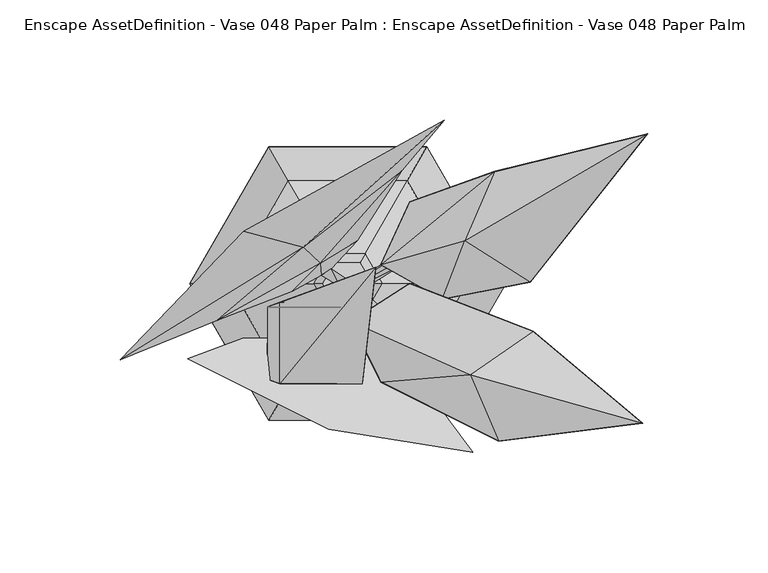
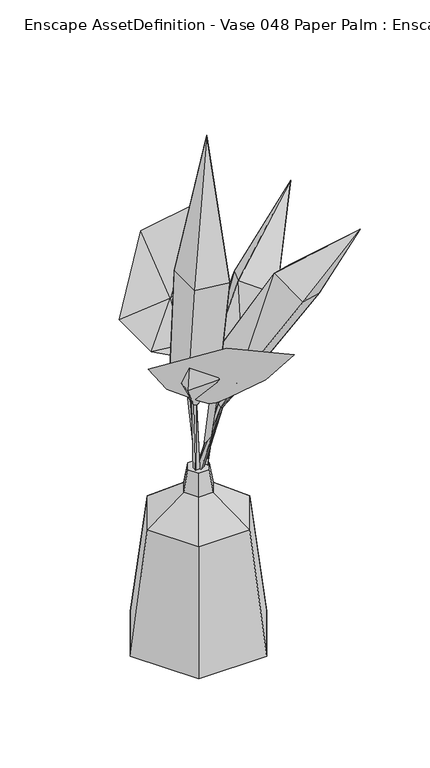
"""IFC4 building model written with IfcOpenShell, lengths in millimetres: geographic element geometry, Enscape AssetDefinition - Vase 048 Paper Palm : Enscape AssetDefinition - Vase 048 Paper Palm."""

from ifc_helpers import new_model, si_unit, origin, place, context, project, spatial, triangles, source, transform, mapped, element, save


def enscape_assetdefinition_vase_048_paper_palm_enscape_44c84509(model_context):
    return source(origin(), model_context, "Body", "Tessellation", [
        triangles([(0.7336593, 0.9058904, 166.844885), (9.2937635, 2.540072, 166.8887232), (65.6177789, 0.0, 0.0), (32.8088895, -56.826396, 0.0), (-32.8088895, -56.826396, 0.0), (-65.6177789, 0.0, 0.0), (-32.8088895, 56.826396, 0.0), (32.8088895, 56.826396, 0.0), (-49.3752747, 0.0, 123.1925895), (-7.1321529, 12.3536609, 149.3368058), (-14.264752, 0.0, 149.3368058), (-24.6876374, 42.7602624, 123.1925895), (7.1321529, 12.3536609, 149.3368058), (24.6876374, 42.7602624, 123.1925895), (-5.1790091, -8.9707744, 170.7972237), (-10.3584657, 0.0, 170.7972237), (-5.1790091, 8.9707744, 170.7972237), (5.1790091, 8.9707744, 170.7972237), (14.264752, 0.0, 149.3368058), (49.3752747, 0.0, 123.1925895), (10.3584657, 0.0, 170.7972237), (7.1321529, -12.3536609, 149.3368058), (5.1790091, -8.9707744, 170.7972237), (-7.1321529, -12.3536609, 149.3368058), (-24.6876374, -42.7602624, 123.1925895), (24.6876374, -42.7602624, 123.1925895), (-66.5214256, -31.3035444, 311.8808178), (-43.6142573, -22.7505985, 278.391056), (-3.5309592, -41.8154527, 289.2850132), (36.2441108, -48.9905462, 276.1144871), (51.7748784, -70.173174, 308.5077679), (-7.8881802, -60.455317, 330.3967661), (-0.3449093, -26.2251911, 255.2190692), (3.0339499, -24.3539095, 249.0348355), (11.4146648, -30.0889792, 254.8840243), (-13.0810557, -22.0402017, 255.582292), (-2.8755867, -22.4123992, 249.2034844), (5.0331718, 3.9398403, 167.0099549), (-94.508748, -31.5724006, 372.1518482), (-43.1691446, 21.7440534, 412.4798372), (-18.473006, 15.0910154, 339.2391769), (22.2853517, 46.7895723, 327.8374383), (39.97504, 67.7664168, 384.9063386), (-54.2652924, -15.1487245, 315.6913774), (-11.1431232, 3.4616193, 268.1225331), (3.9707075, 17.6946106, 293.4834306), (-11.4321124, 8.4983701, 293.5183485), (-23.0583763, -3.2683629, 292.9506143), (-6.8637418, 6.2284994, 269.0015674), (-3.0983687, -1.3259551, 166.1644578), (48.6398272, 17.756346, 331.8149208), (75.8487496, 0.599006, 319.271137), (124.528836, 62.2702316, 380.6918066), (51.5990625, 19.6410454, 248.7892655), (13.6326435, 7.8546282, 264.7369476), (61.0690922, 46.6048179, 319.5976796), (88.3446711, 29.6613095, 306.9778467), (18.4452688, 7.8429976, 220.2016027), (39.2552529, -6.5564091, 257.5725956), (25.7201279, 34.0319525, 256.0672369), (-16.033142, -11.681735, 101.6310604), (19.9197461, 11.0787035, 218.5647295), (21.0560231, 6.934423, 217.0030334), (22.6110222, 10.1880228, 215.2511782), (-9.759011, -9.6722237, 99.9199366), (-13.9900788, -7.4430629, 100.6482261), (-11.8289144, -13.9122379, 100.9381067), (122.4915876, -58.0082961, 404.3907961), (50.8085947, -37.9055874, 372.6783786), (89.0246442, -47.2494506, 344.6199532), (13.7382183, -40.9028494, 275.984317), (38.4227229, -25.296035, 268.050499), (62.7377085, -65.5690083, 355.8122569), (76.9219399, -19.7327504, 361.5508965), (1.2964297, -15.668995, 287.1207376), (25.7648631, 0.0496562, 279.326028), (16.2979741, -12.3952645, 232.643812), (14.7510266, -10.5888511, 236.2986943), (11.7685222, -12.6171509, 237.8197134), (-6.2969443, 1.9746173, 153.8899708), (13.2443406, -14.4079062, 234.286517), (-4.1572539, -2.1191123, 152.5514806), (-0.0845498, 0.3131473, 151.6590205), (-2.245266, 4.4167189, 153.0355172), (-28.2306737, -41.5631471, 384.7027536), (-3.1457882, -39.9777242, 284.1986049), (6.0509002, -41.6682688, 380.6059107), (11.5922657, 6.7675596, 500.0000038), (-2.8567981, -9.8185095, 286.6831916), (-28.2306737, -7.8586552, 384.7027536), (6.0262957, -7.7289228, 380.6090355), (-33.394471, -39.6882888, 283.5306769), (-12.3992909, -13.6532205, 245.7034255), (-8.9399073, -12.3084772, 243.6795846), (-33.341238, -9.6820671, 286.0121751), (-8.7135471, -8.315403, 243.4053463), (-12.2623999, -9.7464868, 245.4962979), (3.0102399, 5.305162, 137.7678081), (3.007556, 0.5435342, 136.976432), (-1.7670453, 0.6513464, 136.4069537), (-1.7956758, 5.3892644, 137.2193496)], [[100, 101, 98], [98, 99, 100], [97, 101, 100], [96, 98, 101], [99, 98, 96], [96, 101, 97], [100, 99, 94], [94, 99, 96], [97, 100, 93], [93, 100, 94], [95, 97, 93], [89, 96, 97], [94, 96, 89], [89, 97, 95], [91, 89, 95], [93, 94, 86], [86, 94, 89], [95, 93, 92], [92, 93, 86], [95, 90, 91], [90, 95, 92], [88, 91, 90], [89, 91, 87], [87, 86, 89], [87, 91, 88], [92, 85, 90], [86, 87, 85], [85, 92, 86], [90, 85, 88], [85, 87, 88], [80, 84, 83], [83, 82, 80], [78, 84, 80], [77, 83, 84], [82, 83, 77], [77, 84, 78], [80, 82, 81], [81, 82, 77], [78, 80, 79], [79, 80, 81], [76, 78, 79], [72, 77, 78], [81, 77, 72], [72, 78, 76], [70, 72, 76], [79, 81, 71], [71, 81, 72], [76, 79, 75], [75, 79, 71], [76, 74, 70], [74, 76, 75], [68, 70, 74], [72, 70, 73], [73, 71, 72], [73, 70, 68], [75, 69, 74], [71, 73, 69], [69, 75, 71], [74, 69, 68], [69, 73, 68], [61, 66, 65], [65, 67, 61], [62, 66, 61], [64, 65, 66], [67, 65, 64], [64, 66, 62], [61, 67, 63], [63, 67, 64], [62, 61, 58], [58, 61, 63], [60, 62, 58], [54, 64, 62], [63, 64, 54], [54, 62, 60], [57, 54, 60], [58, 63, 59], [59, 63, 54], [60, 58, 55], [55, 58, 59], [60, 56, 57], [56, 60, 55], [53, 57, 56], [54, 57, 52], [52, 59, 54], [52, 57, 53], [55, 51, 56], [59, 52, 51], [51, 55, 59], [56, 51, 53], [51, 52, 53], [49, 50, 1], [49, 45, 50], [47, 48, 45], [47, 46, 42], [46, 47, 49], [47, 45, 49], [44, 48, 47], [43, 40, 41], [42, 43, 41], [44, 47, 41], [47, 42, 41], [39, 44, 41], [39, 41, 40], [34, 38, 2], [34, 37, 38], [33, 36, 37], [33, 35, 30], [35, 33, 34], [33, 37, 34], [28, 36, 33], [31, 32, 29], [30, 31, 29], [28, 33, 29], [33, 30, 29], [27, 28, 29], [27, 29, 32], [26, 20, 22], [26, 22, 24], [25, 26, 24], [22, 23, 24], [23, 15, 24], [15, 23, 21], [21, 23, 22], [20, 19, 22], [19, 21, 22], [18, 21, 19], [17, 15, 21], [18, 17, 21], [17, 16, 15], [15, 16, 11], [25, 24, 11], [24, 15, 11], [16, 17, 10], [11, 16, 10], [17, 18, 13], [10, 17, 13], [13, 18, 19], [14, 13, 19], [20, 14, 19], [12, 10, 13], [14, 12, 13], [8, 12, 14], [9, 11, 10], [9, 25, 11], [12, 9, 10], [6, 25, 9], [7, 6, 9], [8, 7, 12], [7, 9, 12], [3, 8, 14], [7, 8, 3], [3, 14, 20], [6, 5, 25], [5, 7, 3], [5, 6, 7], [5, 26, 25], [4, 3, 20], [5, 4, 26], [4, 20, 26], [4, 5, 3]], closed=False),
    ])


if __name__ == "__main__":
    model = new_model("IFC4")
    model_context = context("Model", 3, world=origin())
    ifc_project = project(units=[si_unit("LENGTHUNIT", "METRE", prefix="MILLI")], contexts=[model_context])
    site = spatial("IfcSite", under=ifc_project)
    building = spatial("IfcBuilding", under=site)
    placement = place(None, origin())
    enscape_assetdefinition_vase_048_paper_palm_enscape_shape = enscape_assetdefinition_vase_048_paper_palm_enscape_44c84509(model_context)
    element("IfcGeographicElement", 1, ObjectType="Enscape AssetDefinition - Vase 048 Paper Palm : Enscape AssetDefinition - Vase 048 Paper Palm", at=placement, inside=building, context=model_context, shape_type="MappedRepresentation", body=[
        mapped(enscape_assetdefinition_vase_048_paper_palm_enscape_shape, transform((0.0, 0.0, 0.0), x_axis=(1.0, 0.0, 0.0), y_axis=(0.0, 1.0, 0.0), z_axis=(0.0, 0.0, 1.0))),
    ])
    save(model, "model.ifc")
